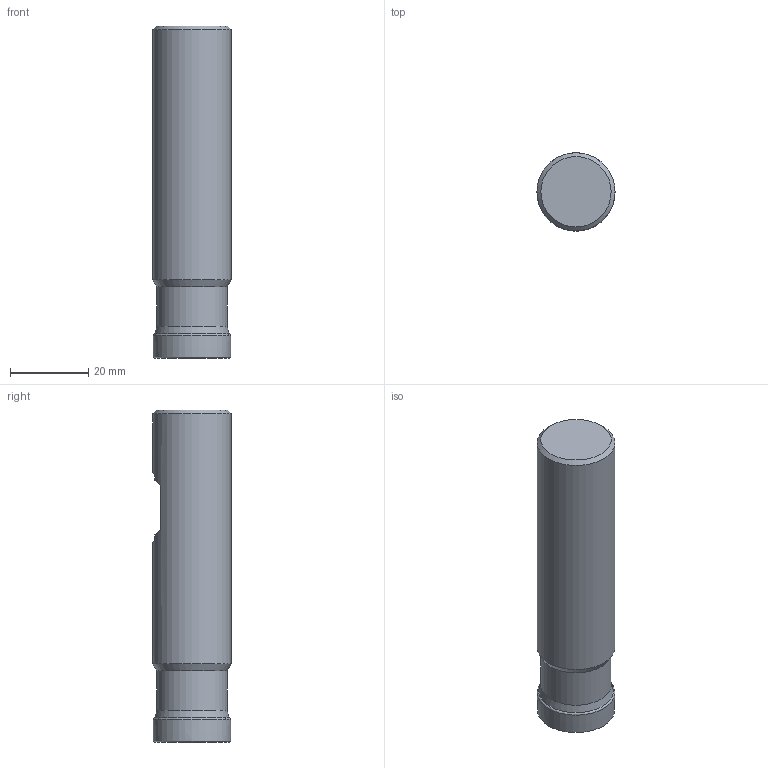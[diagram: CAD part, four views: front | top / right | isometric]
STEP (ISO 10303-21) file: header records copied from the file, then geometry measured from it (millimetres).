
FILE_DESCRIPTION(/* description */ (''),/* implementation_level */ '2;1');
FILE_NAME(/* name */ 'R217.69-2020.3-06-5AN_Basic.stp',/* time_stamp */ '2023-06-06T15:09:11+06:00',/* author */ (''),/* organization */ (''),/* preprocessor_version */ 'ST-DEVELOPER v16.7',/* originating_system */ 'SIEMENS PLM Software NX 12.0',/* authorisation */ '');
FILE_SCHEMA (('AUTOMOTIVE_DESIGN { 1 0 10303 214 3 1 1 1 }'));
Length unit declared in the file: millimetre
Products named in the file (4): CUT; NOCUT; ASSEMBLY_CONSTRUCTION; R217.69-2020.3-06-5AN_Basic
Assembly tree (3 placements, depth 2):
  R217.69-2020.3-06-5AN_Basic
    ASSEMBLY_CONSTRUCTION
    NOCUT
    CUT
Bounding box: 20 x 20 x 84.98 mm (x, y, z)
Volume: 26561.4 mm3; surface area: 6794.9 mm2
Topology: 2 solids, 2 shells, 26 faces, 53 edges, 42 vertices
Faces by surface type: plane 10, revolution 6, cone 5, cylinder 3, torus 2
Full cylindrical faces by diameter (mm): 18 x1, 19.195 x1, 20 x1
Entity records: 948 total; most frequent: CARTESIAN_POINT 218, DIRECTION 134, ORIENTED_EDGE 72, AXIS2_PLACEMENT_3D 58, EDGE_LOOP 44, EDGE_CURVE 36, FACE_BOUND 35, VERTEX_POINT 30
